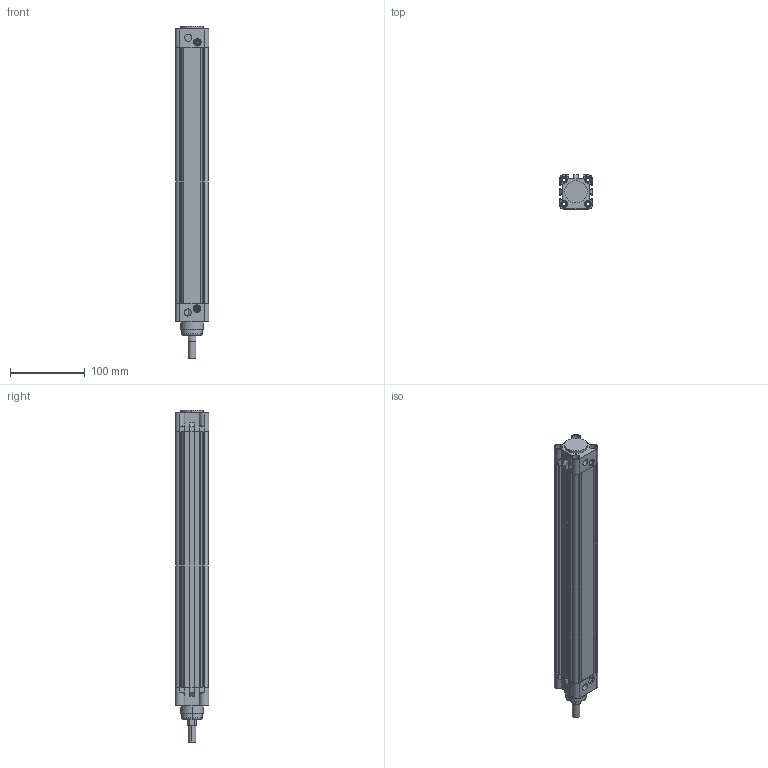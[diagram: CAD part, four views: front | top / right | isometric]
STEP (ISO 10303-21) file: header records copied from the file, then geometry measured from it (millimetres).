
FILE_DESCRIPTION (( 'STEP AP203' ), '1' );
FILE_NAME ('DNCAT-S-32x300CYLINDER.STEP', '2016-12-19T05:44:18', ( 'user' ), ( '' ), 'SwSTEP 2.0', 'SolidWorks 2013', '' );
FILE_SCHEMA (( 'CONFIG_CONTROL_DESIGN' ));
Length unit declared in the file: millimetre
Products named in the file (5): DNCAT-S 32X300 Piston Mili; DNCAT-S-32x300CYLINDER; DNCAT-S 32 ARKA KAPAK ; DNCAT-S 32 烰 KAPAK ; DNCAT-S 32x300 BORU
Assembly tree (4 placements, depth 2):
  DNCAT-S-32x300CYLINDER
    DNCAT-S 32 ARKA KAPAK 
    DNCAT-S 32 烰 KAPAK 
    DNCAT-S 32x300 BORU
    DNCAT-S 32X300 Piston Mili
Bounding box: 45.5 x 45.5 x 444.75 mm (x, y, z)
Volume: 435891 mm3; surface area: 189966.4 mm2
Topology: 4 solids, 4 shells, 319 faces, 810 edges, 522 vertices
Faces by surface type: plane 185, cylinder 98, cone 32, torus 4
Entity records: 10223 total; most frequent: CARTESIAN_POINT 1781, DIRECTION 1674, ORIENTED_EDGE 1620, EDGE_CURVE 810, AXIS2_PLACEMENT_3D 559, VECTOR 556, LINE 556, VERTEX_POINT 522
